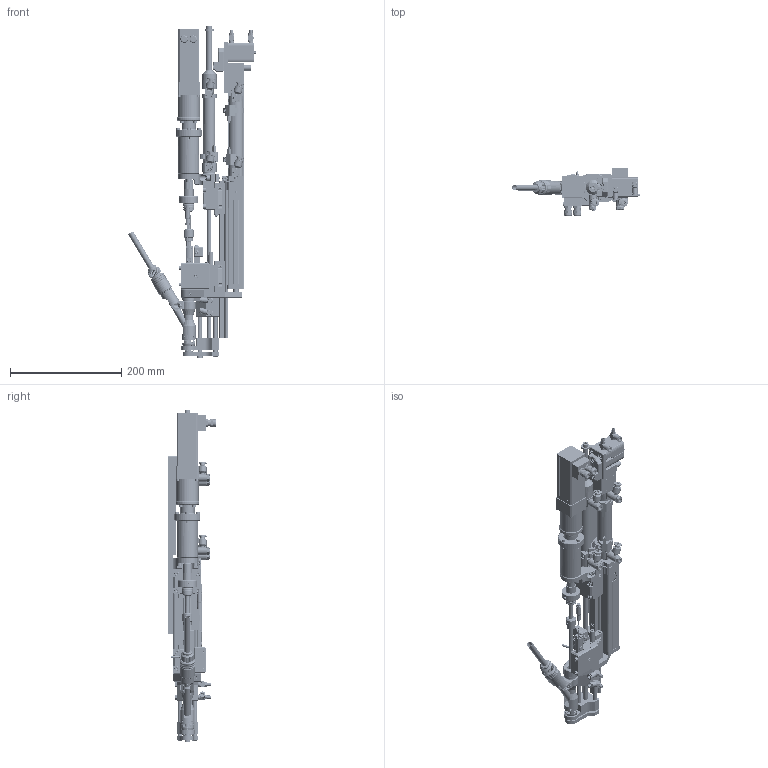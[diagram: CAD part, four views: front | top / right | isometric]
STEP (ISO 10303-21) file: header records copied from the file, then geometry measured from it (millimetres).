
FILE_DESCRIPTION(/* description */ (''),/* implementation_level */ '2;1');
FILE_NAME(/* name */ 'C:\Users\kornelsen\Desktop\Helicoil_Dummy.stp',/* time_stamp */ '2015-01-07T16:26:22+01:00',/* author */ ('kornelsen'),/* organization */ (''),/* preprocessor_version */ 'ST-DEVELOPER v15.2',/* originating_system */ 'Autodesk Inventor 2014',/* authorisation */ '');
FILE_SCHEMA (('AUTOMOTIVE_DESIGN { 1 0 10303 214 3 1 1 }'));
Products named in the file (1): Helicoil_Dummy
Bounding box: 230.03 x 87.6 x 597.53 mm (x, y, z)
Volume: 100625.5 mm3; surface area: 548337.9 mm2
Topology: 157 solids, 164 shells, 5728 faces, 14453 edges, 9205 vertices
Faces by surface type: plane 3220, cylinder 1434, cone 589, bspline 234, torus 219, sphere 32
Full cylindrical faces by diameter (mm): 1.3 x2, 1.5 x2, 2 x2, 2.4 x4, 2.459 x7, 2.5 x4, 2.6 x2, 3 x16, 3.04 x3, 3.1 x6, 3.2 x3, 3.242 x32, 3.3 x8, 3.4 x1, 3.8 x8, 4 x40, 4.019 x6, 4.1 x4, 4.134 x29, 4.2 x3, 4.3 x4, 4.4 x3, 4.5 x23, 4.7 x1, 4.773 x1, 4.8 x2, 4.9 x3, 4.917 x10, 5 x32, 5.1 x11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
Entity records: 189182 total; most frequent: CARTESIAN_POINT 57341, DIRECTION 25362, ORIENTED_EDGE 24894, EDGE_CURVE 12410, AXIS2_PLACEMENT_3D 9428, VERTEX_POINT 8566, EDGE_LOOP 7822, LINE 6506
